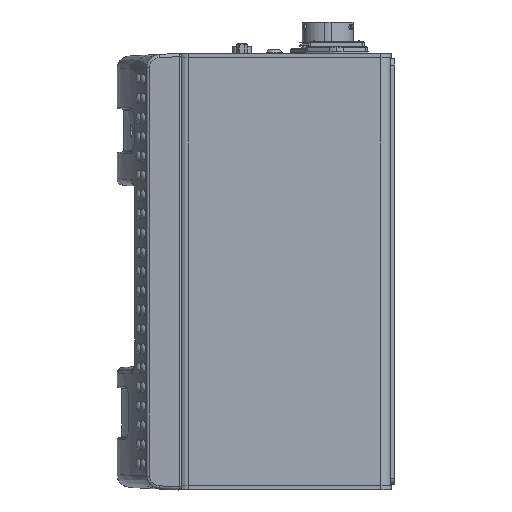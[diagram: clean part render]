
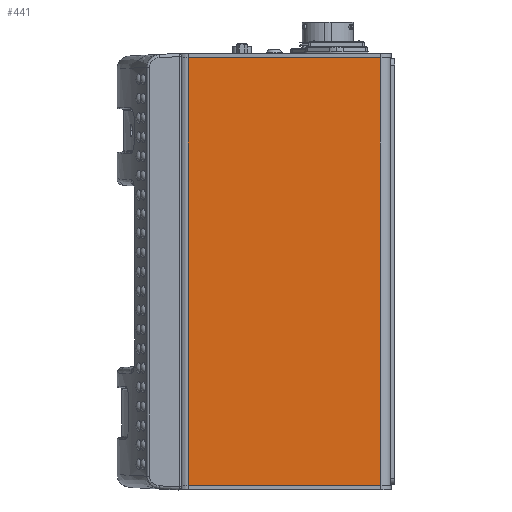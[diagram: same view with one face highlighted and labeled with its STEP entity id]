
A CAD part, left-side view. The second image highlights one B-rep face of the part: STEP entity #441.
In plain terms, the highlighted planar face has unit normal (-1, 0, 0).
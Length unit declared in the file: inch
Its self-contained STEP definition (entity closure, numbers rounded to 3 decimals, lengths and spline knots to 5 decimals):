
#441 = ADVANCED_FACE ( 'NONE', ( #22475 ), #1594, .F. ) ;
#1059 = EDGE_LOOP ( 'NONE', ( #6145, #6140, #80914, #81168 ) ) ;
#1591 = DIRECTION ( 'NONE',  ( 0., 1., 0. ) ) ;
#1592 = DIRECTION ( 'NONE',  ( 1., 0., 0. ) ) ;
#1593 = CARTESIAN_POINT ( 'NONE',  ( -3.25, 1.875, 4.165 ) ) ;
#1594 = PLANE ( 'NONE',  #62155 ) ;
#3401 = EDGE_CURVE ( 'NONE', #67520, #67706, #42541, .T. ) ;
#5854 = DIRECTION ( 'NONE',  ( 0., -1., 0. ) ) ;
#5856 = CARTESIAN_POINT ( 'NONE',  ( -3.25, 1.875, 4.165 ) ) ;
#6140 = ORIENTED_EDGE ( 'NONE', *, *, #72419, .T. ) ;
#6145 = ORIENTED_EDGE ( 'NONE', *, *, #72420, .T. ) ;
#8861 = VECTOR ( 'NONE', #70298, 39.37008 ) ;
#8868 = VECTOR ( 'NONE', #70300, 39.37008 ) ;
#10783 = CARTESIAN_POINT ( 'NONE',  ( -3.25, 1.67815, -4.165 ) ) ;
#11007 = CARTESIAN_POINT ( 'NONE',  ( -3.25, 1.67815, 4.165 ) ) ;
#11283 = CARTESIAN_POINT ( 'NONE',  ( -3.25, -2.06815, -4.165 ) ) ;
#11357 = CARTESIAN_POINT ( 'NONE',  ( -3.25, -2.06815, 4.165 ) ) ;
#17172 = CARTESIAN_POINT ( 'NONE',  ( -3.25, 1.67815, 4.165 ) ) ;
#17173 = DIRECTION ( 'NONE',  ( 0., 0., -1. ) ) ;
#22475 = FACE_OUTER_BOUND ( 'NONE', #1059, .T. ) ;
#28053 = VECTOR ( 'NONE', #17173, 39.37008 ) ;
#42054 = LINE ( 'NONE', #70297, #8861 ) ;
#42055 = LINE ( 'NONE', #70299, #8868 ) ;
#42541 = LINE ( 'NONE', #5856, #61745 ) ;
#49349 = LINE ( 'NONE', #17172, #28053 ) ;
#61745 = VECTOR ( 'NONE', #5854, 39.37008 ) ;
#62155 = AXIS2_PLACEMENT_3D ( 'NONE', #1593, #1592, #1591 ) ;
#67389 = VERTEX_POINT ( 'NONE', #10783 ) ;
#67520 = VERTEX_POINT ( 'NONE', #11007 ) ;
#67671 = VERTEX_POINT ( 'NONE', #11283 ) ;
#67706 = VERTEX_POINT ( 'NONE', #11357 ) ;
#70297 = CARTESIAN_POINT ( 'NONE',  ( -3.25, -2.06815, 4.165 ) ) ;
#70298 = DIRECTION ( 'NONE',  ( 0., 0., 1. ) ) ;
#70299 = CARTESIAN_POINT ( 'NONE',  ( -3.25, 1.875, -4.165 ) ) ;
#70300 = DIRECTION ( 'NONE',  ( 0., -1., 0. ) ) ;
#71687 = EDGE_CURVE ( 'NONE', #67520, #67389, #49349, .T. ) ;
#72419 = EDGE_CURVE ( 'NONE', #67671, #67706, #42054, .T. ) ;
#72420 = EDGE_CURVE ( 'NONE', #67389, #67671, #42055, .T. ) ;
#80914 = ORIENTED_EDGE ( 'NONE', *, *, #3401, .F. ) ;
#81168 = ORIENTED_EDGE ( 'NONE', *, *, #71687, .T. ) ;
